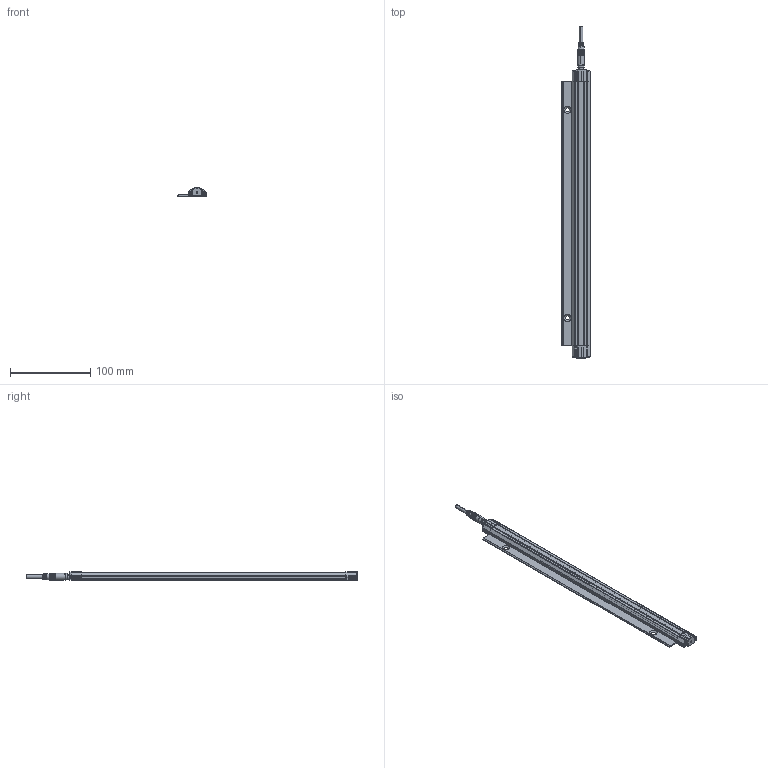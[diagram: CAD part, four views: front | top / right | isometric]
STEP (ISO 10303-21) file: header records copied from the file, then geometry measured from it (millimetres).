
FILE_DESCRIPTION (( 'STEP AP214' ), '1' );
FILE_NAME ('ILGA-L-K2-0360mm.STEP', '2026-04-25T08:26:10', ( '' ), ( '' ), 'SwSTEP 2.0', 'SolidWorks 2025', '' );
FILE_SCHEMA (( 'AUTOMOTIVE_DESIGN' ));
Length unit declared in the file: millimetre
Products named in the file (1): ILGA-L-K2-0360mm
Bounding box: 35 x 414.5 x 10.7 mm (x, y, z)
Surface area: 58471.5 mm2 (no closed solid volume)
Topology: 0 solids, 13 shells, 927 faces, 2432 edges, 1507 vertices
Faces by surface type: cylinder 380, plane 343, cone 82, bspline 56, torus 50, sphere 16
Entity records: 41054 total; most frequent: CARTESIAN_POINT 8480, ORIENTED_EDGE 4745, DIRECTION 4654, EDGE_CURVE 2380, AXIS2_PLACEMENT_3D 1785, VERTEX_POINT 1507, VECTOR 1084, LINE 1084
